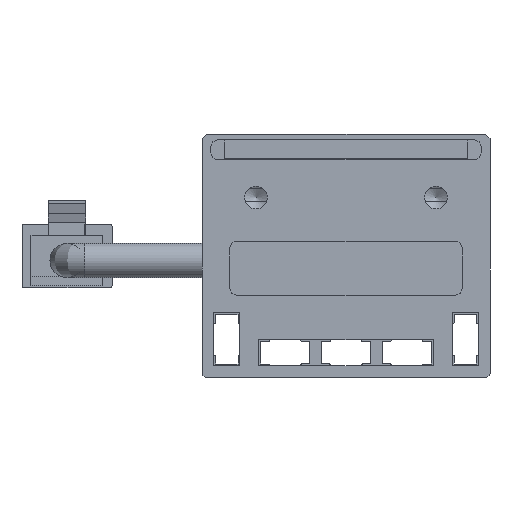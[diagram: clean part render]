
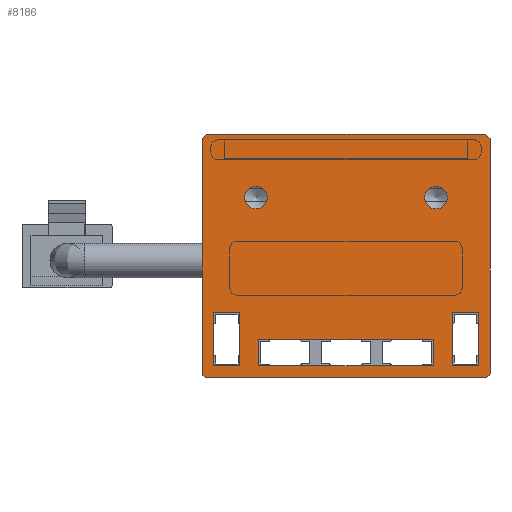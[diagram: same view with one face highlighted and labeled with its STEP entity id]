
A CAD part, front view. The second image highlights one B-rep face of the part: STEP entity #8186.
In plain terms, the highlighted planar face has unit normal (0, -1, 0).
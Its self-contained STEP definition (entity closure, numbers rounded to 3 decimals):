
#73=FACE_BOUND('',#1267,.T.);
#74=FACE_BOUND('',#1268,.T.);
#75=FACE_BOUND('',#1269,.T.);
#76=FACE_BOUND('',#1270,.T.);
#77=FACE_BOUND('',#1271,.T.);
#415=CIRCLE('',#8878,1.265);
#417=CIRCLE('',#8882,1.265);
#419=CIRCLE('',#8897,0.5);
#421=CIRCLE('',#8905,0.5);
#836=FACE_OUTER_BOUND('',#1266,.T.);
#1266=EDGE_LOOP('',(#7410,#7411,#7412,#7413,#7414,#7415,#7416,#7417));
#1267=EDGE_LOOP('',(#7418));
#1268=EDGE_LOOP('',(#7419));
#1269=EDGE_LOOP('',(#7420,#7421,#7422,#7423));
#1270=EDGE_LOOP('',(#7424,#7425,#7426,#7427));
#1271=EDGE_LOOP('',(#7428,#7429,#7430,#7431));
#2172=LINE('',#13450,#3109);
#2175=LINE('',#13456,#3112);
#2178=LINE('',#13462,#3115);
#2181=LINE('',#13466,#3118);
#2184=LINE('',#13474,#3121);
#2187=LINE('',#13480,#3124);
#2190=LINE('',#13486,#3127);
#2193=LINE('',#13490,#3130);
#2196=LINE('',#13498,#3133);
#2199=LINE('',#13504,#3136);
#2202=LINE('',#13510,#3139);
#2205=LINE('',#13514,#3142);
#2209=LINE('',#13528,#3146);
#2212=LINE('',#13534,#3149);
#2215=LINE('',#13540,#3152);
#2218=LINE('',#13546,#3155);
#2221=LINE('',#13552,#3158);
#2225=LINE('',#13562,#3162);
#3109=VECTOR('',#11065,10.);
#3112=VECTOR('',#11070,10.);
#3115=VECTOR('',#11075,10.);
#3118=VECTOR('',#11080,10.);
#3121=VECTOR('',#11085,10.);
#3124=VECTOR('',#11090,10.);
#3127=VECTOR('',#11095,10.);
#3130=VECTOR('',#11100,10.);
#3133=VECTOR('',#11105,10.);
#3136=VECTOR('',#11110,10.);
#3139=VECTOR('',#11115,10.);
#3142=VECTOR('',#11120,10.);
#3146=VECTOR('',#11132,10.);
#3149=VECTOR('',#11137,10.);
#3152=VECTOR('',#11142,10.);
#3155=VECTOR('',#11147,10.);
#3158=VECTOR('',#11152,10.);
#3162=VECTOR('',#11164,10.);
#3903=VERTEX_POINT('',#13431);
#3906=VERTEX_POINT('',#13440);
#3909=VERTEX_POINT('',#13447);
#3910=VERTEX_POINT('',#13449);
#3912=VERTEX_POINT('',#13455);
#3914=VERTEX_POINT('',#13461);
#3917=VERTEX_POINT('',#13471);
#3918=VERTEX_POINT('',#13473);
#3920=VERTEX_POINT('',#13479);
#3922=VERTEX_POINT('',#13485);
#3925=VERTEX_POINT('',#13495);
#3926=VERTEX_POINT('',#13497);
#3928=VERTEX_POINT('',#13503);
#3930=VERTEX_POINT('',#13509);
#3933=VERTEX_POINT('',#13519);
#3934=VERTEX_POINT('',#13521);
#3936=VERTEX_POINT('',#13527);
#3938=VERTEX_POINT('',#13533);
#3940=VERTEX_POINT('',#13539);
#3942=VERTEX_POINT('',#13545);
#3944=VERTEX_POINT('',#13551);
#3946=VERTEX_POINT('',#13557);
#5056=EDGE_CURVE('',#3903,#3903,#415,.T.);
#5060=EDGE_CURVE('',#3906,#3906,#417,.T.);
#5064=EDGE_CURVE('',#3910,#3909,#2172,.T.);
#5067=EDGE_CURVE('',#3912,#3910,#2175,.T.);
#5070=EDGE_CURVE('',#3914,#3912,#2178,.T.);
#5073=EDGE_CURVE('',#3909,#3914,#2181,.T.);
#5076=EDGE_CURVE('',#3918,#3917,#2184,.T.);
#5079=EDGE_CURVE('',#3920,#3918,#2187,.T.);
#5082=EDGE_CURVE('',#3922,#3920,#2190,.T.);
#5085=EDGE_CURVE('',#3917,#3922,#2193,.T.);
#5088=EDGE_CURVE('',#3926,#3925,#2196,.T.);
#5091=EDGE_CURVE('',#3928,#3926,#2199,.T.);
#5094=EDGE_CURVE('',#3930,#3928,#2202,.T.);
#5097=EDGE_CURVE('',#3925,#3930,#2205,.T.);
#5100=EDGE_CURVE('',#3934,#3933,#419,.T.);
#5103=EDGE_CURVE('',#3936,#3934,#2209,.T.);
#5106=EDGE_CURVE('',#3938,#3936,#2212,.T.);
#5109=EDGE_CURVE('',#3940,#3938,#2215,.T.);
#5112=EDGE_CURVE('',#3942,#3940,#2218,.T.);
#5115=EDGE_CURVE('',#3944,#3942,#2221,.T.);
#5118=EDGE_CURVE('',#3946,#3944,#421,.T.);
#5121=EDGE_CURVE('',#3933,#3946,#2225,.T.);
#7410=ORIENTED_EDGE('',*,*,#5121,.T.);
#7411=ORIENTED_EDGE('',*,*,#5118,.T.);
#7412=ORIENTED_EDGE('',*,*,#5115,.T.);
#7413=ORIENTED_EDGE('',*,*,#5112,.T.);
#7414=ORIENTED_EDGE('',*,*,#5109,.T.);
#7415=ORIENTED_EDGE('',*,*,#5106,.T.);
#7416=ORIENTED_EDGE('',*,*,#5103,.T.);
#7417=ORIENTED_EDGE('',*,*,#5100,.T.);
#7418=ORIENTED_EDGE('',*,*,#5056,.T.);
#7419=ORIENTED_EDGE('',*,*,#5060,.T.);
#7420=ORIENTED_EDGE('',*,*,#5097,.T.);
#7421=ORIENTED_EDGE('',*,*,#5094,.T.);
#7422=ORIENTED_EDGE('',*,*,#5091,.T.);
#7423=ORIENTED_EDGE('',*,*,#5088,.T.);
#7424=ORIENTED_EDGE('',*,*,#5085,.T.);
#7425=ORIENTED_EDGE('',*,*,#5082,.T.);
#7426=ORIENTED_EDGE('',*,*,#5079,.T.);
#7427=ORIENTED_EDGE('',*,*,#5076,.T.);
#7428=ORIENTED_EDGE('',*,*,#5073,.T.);
#7429=ORIENTED_EDGE('',*,*,#5070,.T.);
#7430=ORIENTED_EDGE('',*,*,#5067,.T.);
#7431=ORIENTED_EDGE('',*,*,#5064,.T.);
#7770=PLANE('',#8907);
#8186=ADVANCED_FACE('',(#836,#73,#74,#75,#76,#77),#7770,.T.);
#8878=AXIS2_PLACEMENT_3D('',#13432,#11048,#11049);
#8882=AXIS2_PLACEMENT_3D('',#13441,#11058,#11059);
#8897=AXIS2_PLACEMENT_3D('',#13522,#11126,#11127);
#8905=AXIS2_PLACEMENT_3D('',#13558,#11158,#11159);
#8907=AXIS2_PLACEMENT_3D('',#13563,#11165,#11166);
#11048=DIRECTION('center_axis',(0.,1.,0.));
#11049=DIRECTION('ref_axis',(0.,0.,-1.));
#11058=DIRECTION('center_axis',(0.,1.,0.));
#11059=DIRECTION('ref_axis',(0.,0.,-1.));
#11065=DIRECTION('',(0.,0.,-1.));
#11070=DIRECTION('',(1.,0.,0.));
#11075=DIRECTION('',(0.,0.,1.));
#11080=DIRECTION('',(-1.,0.,0.));
#11085=DIRECTION('',(0.,0.,-1.));
#11090=DIRECTION('',(1.,0.,0.));
#11095=DIRECTION('',(0.,0.,1.));
#11100=DIRECTION('',(-1.,0.,0.));
#11105=DIRECTION('',(0.,0.,-1.));
#11110=DIRECTION('',(1.,0.,0.));
#11115=DIRECTION('',(0.,0.,1.));
#11120=DIRECTION('',(-1.,0.,0.));
#11126=DIRECTION('center_axis',(0.,-1.,0.));
#11127=DIRECTION('ref_axis',(-1.,0.,0.));
#11132=DIRECTION('',(0.,0.,-1.));
#11137=DIRECTION('',(-0.707,0.,-0.707));
#11142=DIRECTION('',(-1.,0.,0.));
#11147=DIRECTION('',(-0.707,0.,0.707));
#11152=DIRECTION('',(0.,0.,1.));
#11158=DIRECTION('center_axis',(0.,-1.,0.));
#11159=DIRECTION('ref_axis',(0.,0.,-1.));
#11164=DIRECTION('',(1.,0.,0.));
#11165=DIRECTION('center_axis',(0.,-1.,0.));
#11166=DIRECTION('ref_axis',(1.,0.,0.));
#13431=CARTESIAN_POINT('',(-10.,-390.,21.265));
#13432=CARTESIAN_POINT('Origin',(-10.,-390.,20.));
#13440=CARTESIAN_POINT('',(10.,-390.,21.265));
#13441=CARTESIAN_POINT('Origin',(10.,-390.,20.));
#13447=CARTESIAN_POINT('',(9.7,-390.,1.3));
#13449=CARTESIAN_POINT('',(9.7,-390.,4.2));
#13450=CARTESIAN_POINT('',(9.7,-390.,4.2));
#13455=CARTESIAN_POINT('',(-9.7,-390.,4.2));
#13456=CARTESIAN_POINT('',(-9.7,-390.,4.2));
#13461=CARTESIAN_POINT('',(-9.7,-390.,1.3));
#13462=CARTESIAN_POINT('',(-9.7,-390.,1.3));
#13466=CARTESIAN_POINT('',(9.7,-390.,1.3));
#13471=CARTESIAN_POINT('',(14.7,-390.,1.3));
#13473=CARTESIAN_POINT('',(14.7,-390.,7.2));
#13474=CARTESIAN_POINT('',(14.7,-390.,7.2));
#13479=CARTESIAN_POINT('',(11.8,-390.,7.2));
#13480=CARTESIAN_POINT('',(11.8,-390.,7.2));
#13485=CARTESIAN_POINT('',(11.8,-390.,1.3));
#13486=CARTESIAN_POINT('',(11.8,-390.,1.3));
#13490=CARTESIAN_POINT('',(14.7,-390.,1.3));
#13495=CARTESIAN_POINT('',(-11.8,-390.,1.3));
#13497=CARTESIAN_POINT('',(-11.8,-390.,7.2));
#13498=CARTESIAN_POINT('',(-11.8,-390.,7.2));
#13503=CARTESIAN_POINT('',(-14.7,-390.,7.2));
#13504=CARTESIAN_POINT('',(-14.7,-390.,7.2));
#13509=CARTESIAN_POINT('',(-14.7,-390.,1.3));
#13510=CARTESIAN_POINT('',(-14.7,-390.,1.3));
#13514=CARTESIAN_POINT('',(-11.8,-390.,1.3));
#13519=CARTESIAN_POINT('',(-15.5,-390.,0.));
#13521=CARTESIAN_POINT('',(-16.,-390.,0.5));
#13522=CARTESIAN_POINT('Origin',(-15.5,-390.,0.5));
#13527=CARTESIAN_POINT('',(-16.,-390.,26.5));
#13528=CARTESIAN_POINT('',(-16.,-390.,0.5));
#13533=CARTESIAN_POINT('',(-15.5,-390.,27.));
#13534=CARTESIAN_POINT('',(-16.,-390.,26.5));
#13539=CARTESIAN_POINT('',(15.5,-390.,27.));
#13540=CARTESIAN_POINT('',(-15.5,-390.,27.));
#13545=CARTESIAN_POINT('',(16.,-390.,26.5));
#13546=CARTESIAN_POINT('',(15.5,-390.,27.));
#13551=CARTESIAN_POINT('',(16.,-390.,0.5));
#13552=CARTESIAN_POINT('',(16.,-390.,26.5));
#13557=CARTESIAN_POINT('',(15.5,-390.,0.));
#13558=CARTESIAN_POINT('Origin',(15.5,-390.,0.5));
#13562=CARTESIAN_POINT('',(15.5,-390.,0.));
#13563=CARTESIAN_POINT('Origin',(0.,-390.,13.5));
